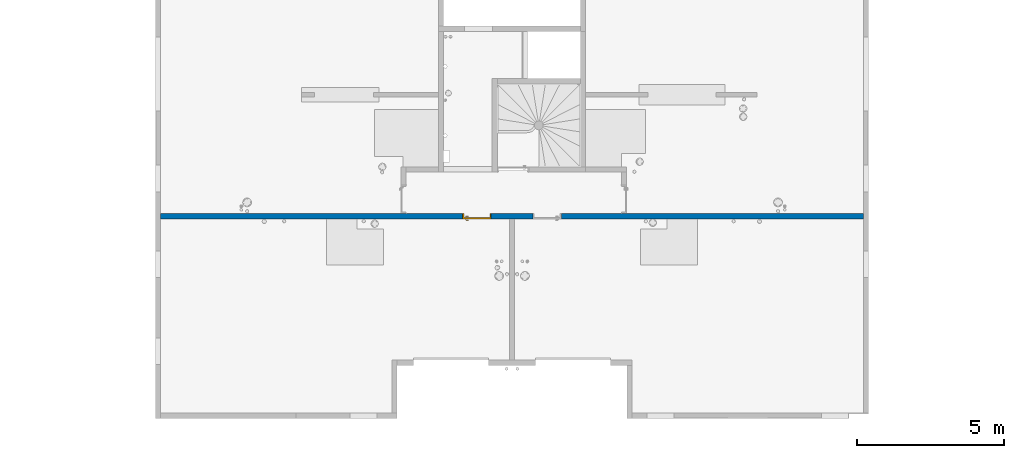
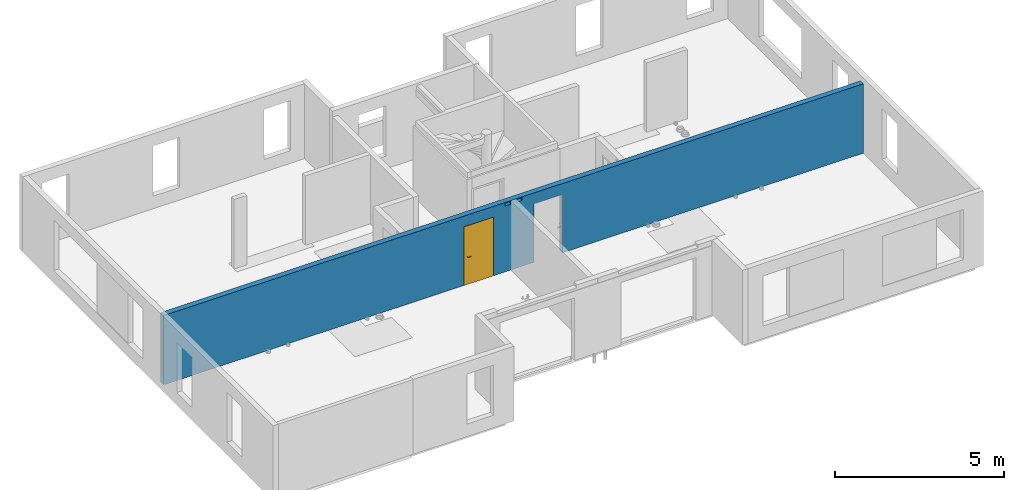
# One storey, part 8 of 24: 1 door, 1 wall, 6 openings.
"""IFC2X3 building model written with IfcOpenShell, lengths in centimetres."""

from ifc_helpers import new_model, entity, si_unit, converted_unit, derived_unit, direction, frame, frame_2d, origin, place, context, subcontext, project, spatial, rectangle, extrude, faceted_brep, source, transform, mapped, material, material_list, layer, layer_set, layer_usage, type_object, type_shapes, element, fill, save


model = new_model("IFC2X3")

# Units and contexts
model_context = context("Model", 3, precision=0.001, world=origin(), true_north=direction((6.12303176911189e-17, 1.0)))
body_context = subcontext(model_context, "Body", "Model", "MODEL_VIEW")
ifc_project = project(units=[si_unit("LENGTHUNIT", "METRE", prefix="CENTI"), si_unit("AREAUNIT", "SQUARE_METRE"), si_unit("VOLUMEUNIT", "CUBIC_METRE"), converted_unit("PLANEANGLEUNIT", "DEGREE", entity("IfcRatioMeasure", 0.0174532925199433), si_unit("PLANEANGLEUNIT", "RADIAN"), dimensions=[0, 0, 0, 0, 0, 0, 0]), si_unit("MASSUNIT", "GRAM", prefix="KILO"), derived_unit("MASSDENSITYUNIT", [(si_unit("MASSUNIT", "GRAM", prefix="KILO"), 1), (si_unit("LENGTHUNIT", "METRE"), -3)]), si_unit("TIMEUNIT", "SECOND"), si_unit("FREQUENCYUNIT", "HERTZ"), si_unit("THERMODYNAMICTEMPERATUREUNIT", "DEGREE_CELSIUS"), derived_unit("THERMALTRANSMITTANCEUNIT", [(si_unit("MASSUNIT", "GRAM", prefix="KILO"), 1), (si_unit("THERMODYNAMICTEMPERATUREUNIT", "KELVIN"), -1), (si_unit("TIMEUNIT", "SECOND"), -3)]), derived_unit("VOLUMETRICFLOWRATEUNIT", [(si_unit("LENGTHUNIT", "METRE"), 3), (si_unit("TIMEUNIT", "SECOND"), -1)]), si_unit("ELECTRICCURRENTUNIT", "AMPERE"), si_unit("ELECTRICVOLTAGEUNIT", "VOLT"), si_unit("POWERUNIT", "WATT"), si_unit("FORCEUNIT", "NEWTON"), si_unit("ILLUMINANCEUNIT", "LUX"), si_unit("LUMINOUSFLUXUNIT", "LUMEN"), si_unit("LUMINOUSINTENSITYUNIT", "CANDELA"), derived_unit("USERDEFINED", [(si_unit("MASSUNIT", "GRAM", prefix="KILO"), -1), (si_unit("LENGTHUNIT", "METRE"), -2), (si_unit("TIMEUNIT", "SECOND"), 3), (si_unit("LUMINOUSFLUXUNIT", "LUMEN"), 1)]), derived_unit("LINEARVELOCITYUNIT", [(si_unit("LENGTHUNIT", "METRE"), 1), (si_unit("TIMEUNIT", "SECOND"), -1)]), si_unit("PRESSUREUNIT", "PASCAL"), derived_unit("USERDEFINED", [(si_unit("LENGTHUNIT", "METRE"), -2), (si_unit("MASSUNIT", "GRAM", prefix="KILO"), 1), (si_unit("TIMEUNIT", "SECOND"), -2)])], contexts=[model_context])

# Site, building, storey
site_placement = place(None, origin())
site = spatial("IfcSite", under=ifc_project, at=site_placement, Name="Default", CompositionType="ELEMENT")
building_placement = place(site_placement, origin())
building = spatial("IfcBuilding", under=site, at=building_placement, Name="CAGE 03", CompositionType="ELEMENT")
storey_placement = place(building_placement, frame((0.0, 0.0, 1150.0)))
storey = spatial("IfcBuildingStorey", under=building, at=storey_placement, Name="R+4", CompositionType="ELEMENT", Elevation=1150.0)

# Wall, openings, door
ifc_material_1 = material(Name="Béton, C25/30")
ifc_layer = layer(ifc_material_1, 18.0)
ifc_layer_set = layer_set([ifc_layer], Name="Mur de base:Voile BA 18")
ifc_layer_usage = layer_usage(ifc_layer_set, "AXIS2", "NEGATIVE", 9.0)
wall_type = type_object("IfcWallType", Name="Mur de base:Voile BA 18", PredefinedType="STANDARD", material=ifc_layer_set)
wall_placement = place(storey_placement, frame((5888.36582014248, 4483.6606660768, 0.0)))
wall = element("IfcWallStandardCase", 1, at=wall_placement, inside=storey, type_object=wall_type, material=ifc_layer_usage, Name="Mur de base:Voile BA 18", ObjectType="Mur de base:Voile BA 18", context=body_context, shape_type="SweptSolid", body=[
    extrude(rectangle(XDim=2385.99999999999, YDim=17.9999999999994, at=frame_2d((1193.0, -8.88178419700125e-16), x_axis=(-1.0, 0.0))), origin(), (0.0, 0.0, 1.0), 250.0),
])
opening_1_placement = place(wall_placement, origin())
element("IfcOpeningElement", 2, at=opening_1_placement, cuts=wall, Name="Mur de base:Voile BA 18", ObjectType="Opening", context=body_context, shape_type="SweptSolid", body=[
    extrude(rectangle(XDim=210.000000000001, YDim=18.0000000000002, at=frame_2d((4.33431068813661e-13, 0.0), x_axis=(0.0, 1.0))), frame((825.0, 9.0, 105.0), z_axis=(0.0, 1.0, 0.0), x_axis=(1.0, 0.0, 0.0)), (0.0, 0.0, 1.0), 96.9999999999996),
])
opening_2_placement = place(wall_placement, origin())
element("IfcOpeningElement", 3, at=opening_2_placement, cuts=wall, Name="Mur de base:Voile BA 18", ObjectType="Opening", context=body_context, shape_type="SweptSolid", body=[
    extrude(rectangle(XDim=210.000000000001, YDim=18.0000000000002, at=frame_2d((4.33431068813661e-13, 0.0), x_axis=(0.0, 1.0))), frame((1573.0, 9.0, 105.0), z_axis=(0.0, 1.0, 0.0), x_axis=(1.0, 0.0, 0.0)), (0.0, 0.0, 1.0), 96.9999999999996),
])
opening_3_placement = place(wall_placement, origin())
element("IfcOpeningElement", 4, at=opening_3_placement, cuts=wall, Name="Mur de base:Voile BA 18", ObjectType="Opening", context=body_context, shape_type="SweptSolid", body=[
    extrude(rectangle(XDim=10.0000000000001, YDim=19.9999999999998, at=frame_2d((4.33431068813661e-13, 1.08357767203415e-13), x_axis=(0.0, 1.0))), frame((1174.0, -9.0, 242.500000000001), z_axis=(0.0, 1.0, 0.0), x_axis=(1.0, 0.0, 0.0)), (0.0, 0.0, 1.0), 17.9999999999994),
])
opening_4_placement = place(wall_placement, origin())
element("IfcOpeningElement", 5, at=opening_4_placement, cuts=wall, Name="Mur de base:Voile BA 18", ObjectType="Opening", context=body_context, shape_type="SweptSolid", body=[
    extrude(rectangle(XDim=10.0000000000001, YDim=19.9999999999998, at=frame_2d((4.33431068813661e-13, 1.08357767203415e-13), x_axis=(0.0, 1.0))), frame((1212.0, -9.0, 242.500000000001), z_axis=(0.0, 1.0, 0.0), x_axis=(1.0, 0.0, 0.0)), (0.0, 0.0, 1.0), 17.9999999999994),
])
opening_5_placement = place(wall_placement, frame((1122.5, 9.0, 0.0)))
opening_5 = element("IfcOpeningElement", 6, at=opening_5_placement, cuts=wall, Name="Int. Simple:HB93:1", ObjectType="Opening", context=body_context, shape_type="SweptSolid", body=[
    extrude(rectangle(XDim=210.000000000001, YDim=96.9999999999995, at=frame_2d((105.000000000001, 48.4999999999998), x_axis=(1.0, 0.0))), frame((0.0, 0.0, 0.0), z_axis=(0.0, -1.0, 0.0), x_axis=(0.0, 0.0, 1.0)), (0.0, 0.0, 1.0), 18.0),
])
opening_6_placement = place(wall_placement, frame((1360.5, 9.0, 0.0)))
element("IfcOpeningElement", 7, at=opening_6_placement, cuts=wall, Name="Int. Simple:HB93:1", ObjectType="Opening", context=body_context, shape_type="SweptSolid", body=[
    extrude(rectangle(XDim=210.000000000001, YDim=96.9999999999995, at=frame_2d((105.000000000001, 48.4999999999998), x_axis=(1.0, 0.0))), frame((0.0, 0.0, 0.0), z_axis=(0.0, -1.0, 0.0), x_axis=(0.0, 0.0, 1.0)), (0.0, 0.0, 1.0), 18.0),
])
ifc_material_2 = material(Name="Finition Peinture - Blanc satiné")
ifc_material_3 = material(Name="Bois - Panneau de porte")
ifc_material_4 = material(Name="Bois - Cadre de porte")
ifc_material_list_1 = material_list([ifc_material_2, ifc_material_3, ifc_material_4])
ifc_material_list_2 = material_list([ifc_material_2, ifc_material_3, ifc_material_4])
door_style = type_object("IfcDoorStyle", Name="HB93", ConstructionType="NOTDEFINED", OperationType="SINGLE_SWING_LEFT", ParameterTakesPrecedence=False, Sizeable=False, material=ifc_material_list_2)
shared_shape = source(origin(), body_context, "Body", "Brep", [
    faceted_brep([(10.5352761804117, -0.500000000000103, 86.6003983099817), (11.5000000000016, -0.500000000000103, 87.0), (11.5000000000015, -0.500000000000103, 108.0), (10.5352761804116, -0.500000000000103, 108.399601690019), (9.50000000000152, -0.500000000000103, 108.535898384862), (8.46472381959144, -0.500000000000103, 108.399601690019), (7.50000000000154, -0.500000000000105, 108.0), (7.50000000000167, -0.500000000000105, 87.0), (8.46472381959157, -0.500000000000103, 86.6003983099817), (9.50000000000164, -0.500000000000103, 86.464101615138), (10.5352761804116, 0.0, 108.399601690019), (11.5000000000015, 0.0, 108.0), (11.5000000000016, 0.0, 87.0), (10.5352761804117, 0.0, 86.6003983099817), (9.50000000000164, 0.0, 86.464101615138), (8.46472381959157, 0.0, 86.6003983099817), (7.50000000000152, 0.0, 87.0), (7.50000000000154, 0.0, 108.0), (8.46472381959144, 0.0, 108.399601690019), (9.50000000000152, 0.0, 108.535898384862)], [[[0, 1, 2, 3, 4, 5, 6, 7, 8, 9]], [[10, 11, 12, 13, 14, 15, 16, 17, 18, 19]], [[16, 15, 8, 7]], [[8, 15, 14, 9]], [[14, 13, 0, 9]], [[13, 12, 1, 0]], [[2, 1, 12, 11]], [[11, 10, 3, 2]], [[3, 10, 19, 4]], [[19, 18, 5, 4]], [[18, 17, 6, 5]], [[7, 6, 17, 16]]]),
    faceted_brep([(10.5352761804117, 4.0, 86.6003983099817), (11.5000000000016, 4.0, 87.0), (11.5000000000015, 4.0, 108.0), (10.5352761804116, 4.0, 108.399601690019), (9.50000000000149, 4.0, 108.535898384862), (8.46472381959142, 4.0, 108.399601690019), (7.50000000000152, 4.0, 108.0), (7.50000000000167, 4.0, 87.0), (8.46472381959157, 4.0, 86.6003983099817), (9.50000000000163, 4.0, 86.464101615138), (10.5352761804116, 4.49999999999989, 108.399601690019), (11.5000000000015, 4.4999999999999, 108.0), (11.5000000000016, 4.4999999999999, 87.0), (10.5352761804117, 4.49999999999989, 86.6003983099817), (9.50000000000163, 4.49999999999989, 86.464101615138), (8.46472381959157, 4.49999999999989, 86.6003983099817), (7.50000000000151, 4.49999999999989, 87.0), (7.50000000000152, 4.49999999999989, 108.0), (8.46472381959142, 4.49999999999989, 108.399601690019), (9.50000000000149, 4.49999999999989, 108.535898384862)], [[[0, 1, 2, 3, 4, 5, 6, 7, 8, 9]], [[10, 11, 12, 13, 14, 15, 16, 17, 18, 19]], [[11, 10, 3, 2]], [[3, 10, 19, 4]], [[19, 18, 5, 4]], [[18, 17, 6, 5]], [[7, 6, 17, 16]], [[16, 15, 8, 7]], [[8, 15, 14, 9]], [[14, 13, 0, 9]], [[13, 12, 1, 0]], [[2, 1, 12, 11]]]),
    faceted_brep([(9.29747013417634, -0.500000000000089, 100.778044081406), (9.70252986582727, -0.500000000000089, 100.778044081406), (10.1000000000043, -0.500000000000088, 100.699999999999), (10.1000000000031, -0.500000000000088, 99.3000000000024), (9.70252986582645, -0.500000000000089, 99.2219559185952), (9.29747013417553, -0.500000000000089, 99.221955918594), (8.89999999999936, -0.500000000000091, 99.2999999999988), (8.89999999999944, -0.500000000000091, 100.7), (8.89999999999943, -3.26509507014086, 100.7), (9.29747013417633, -3.10045754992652, 100.778044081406), (10.9023585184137, -4.70534593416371, 100.778044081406), (11.0701397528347, -4.30028620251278, 100.778044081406), (9.70252986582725, -2.93267631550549, 100.778044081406), (10.1000000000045, -2.76803879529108, 100.7), (10.1000000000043, -2.76803879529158, 99.3000000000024), (9.70252986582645, -2.93267631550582, 99.2219559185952), (11.0701397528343, -4.30028620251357, 99.2219559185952), (10.9023585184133, -4.70534593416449, 99.221955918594), (9.29747013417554, -3.10045754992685, 99.221955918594), (8.89999999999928, -3.26509507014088, 99.2999999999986), (10.7377209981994, -5.1028160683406, 100.7), (11.2347772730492, -3.90281606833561, 100.7), (11.2347772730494, -3.90281606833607, 99.3000000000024), (10.7377209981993, -5.10281606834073, 99.2999999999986), (19.5018640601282, -5.1028160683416, 99.2999999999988), (19.5018640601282, -4.70534593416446, 99.221955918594), (19.5018640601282, -4.30028620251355, 99.2219559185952), (19.5018640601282, -3.90281606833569, 99.3000000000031), (19.5018640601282, -3.90281606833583, 100.7), (19.5018640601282, -4.30028620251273, 100.778044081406), (19.5018640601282, -4.70534593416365, 100.778044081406), (19.5018640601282, -5.10281606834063, 100.699999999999), (14.7307697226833, -5.10281606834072, 100.7), (15.28600190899, -4.5028160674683, 100.78786867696), (15.3683206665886, -3.9028160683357, 100.7), (15.3683206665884, -3.90281606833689, 99.3000000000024), (15.2860018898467, -4.50281607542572, 99.2121313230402), (14.7307700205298, -5.10281606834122, 99.2999999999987)], [[[0, 1, 2, 3, 4, 5, 6, 7]], [[8, 9, 0, 7]], [[9, 10, 11, 12, 1, 0]], [[12, 13, 2, 1]], [[3, 2, 13, 14]], [[14, 15, 4, 3]], [[15, 16, 17, 18, 5, 4]], [[18, 19, 6, 5]], [[7, 6, 19, 8]], [[20, 10, 9, 8]], [[11, 21, 13, 12]], [[14, 13, 21, 22]], [[22, 16, 15, 14]], [[17, 23, 19, 18]], [[8, 19, 23, 20]], [[24, 25, 26, 27, 28, 29, 30, 31]], [[32, 30, 33]], [[31, 30, 32]], [[10, 20, 32]], [[33, 34, 11]], [[21, 11, 34]], [[34, 29, 28]], [[30, 29, 33]], [[29, 34, 33]], [[10, 32, 33]], [[10, 33, 11]], [[22, 21, 34, 28, 27, 35]], [[35, 26, 36]], [[37, 36, 25]], [[22, 35, 16]], [[35, 27, 26]], [[24, 37, 25]], [[23, 17, 37]], [[37, 17, 36]], [[17, 16, 36]], [[16, 35, 36]], [[25, 36, 26]], [[20, 23, 37, 24, 31, 32]]]),
    faceted_brep([(9.29747013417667, 4.49999999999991, 100.778044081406), (8.89999999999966, 4.49999999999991, 100.7), (8.89999999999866, 4.49999999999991, 99.2999999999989), (9.2974701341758, 4.49999999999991, 99.221955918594), (9.70252986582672, 4.49999999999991, 99.2219559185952), (10.1000000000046, 4.49999999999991, 99.3000000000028), (10.1000000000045, 4.49999999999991, 100.7), (9.70252986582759, 4.49999999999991, 100.778044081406), (10.1000000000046, 6.7485204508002, 99.3000000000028), (10.1000000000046, 6.74852045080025, 100.7), (9.70252986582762, 6.91315797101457, 100.778044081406), (11.0838906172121, 8.29451872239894, 100.778044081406), (10.9161093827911, 8.69957845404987, 100.778044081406), (9.29747013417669, 7.0809392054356, 100.778044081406), (8.89999999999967, 7.24557672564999, 100.7), (8.89999999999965, 7.24557672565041, 99.2999999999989), (9.29747013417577, 7.08093920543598, 99.221955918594), (10.9161093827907, 8.69957845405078, 99.221955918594), (11.0838906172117, 8.29451872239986, 99.2219559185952), (9.7025298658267, 6.91315797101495, 99.2219559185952), (11.2485281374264, 7.89704858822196, 99.3000000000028), (11.2485281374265, 7.89704858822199, 100.7), (10.7514718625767, 9.0970485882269, 100.7), (10.751471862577, 9.0970485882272, 99.2999999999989), (19.504578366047, 7.89704858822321, 99.3000000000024), (19.504578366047, 8.29451872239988, 99.2219559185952), (19.504578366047, 8.6995784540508, 99.221955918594), (19.504578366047, 9.09704858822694, 99.2999999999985), (19.504578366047, 9.09704858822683, 100.7), (19.504578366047, 8.69957845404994, 100.778044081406), (19.504578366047, 8.29451872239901, 100.778044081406), (19.504578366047, 7.89704858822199, 100.7), (15.3765520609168, 7.89704858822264, 99.3000000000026), (15.3765532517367, 7.89704858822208, 100.7), (15.294234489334, 8.49704858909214, 100.78786867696), (14.7445205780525, 9.09704858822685, 100.7), (14.7445204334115, 9.09704858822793, 99.2999999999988), (15.2942345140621, 8.49704858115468, 99.2121313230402)], [[[0, 1, 2, 3, 4, 5, 6, 7]], [[6, 5, 8, 9]], [[9, 10, 7, 6]], [[10, 11, 12, 13, 0, 7]], [[13, 14, 1, 0]], [[2, 1, 14, 15]], [[15, 16, 3, 2]], [[16, 17, 18, 19, 4, 3]], [[19, 8, 5, 4]], [[9, 8, 20, 21]], [[21, 11, 10, 9]], [[12, 22, 14, 13]], [[15, 14, 22, 23]], [[23, 17, 16, 15]], [[18, 20, 8, 19]], [[24, 25, 26, 27, 28, 29, 30, 31]], [[21, 20, 32, 24, 31, 33]], [[33, 30, 34]], [[35, 34, 29]], [[21, 33, 11]], [[33, 31, 30]], [[28, 35, 29]], [[22, 12, 35]], [[35, 12, 34]], [[12, 11, 34]], [[11, 33, 34]], [[29, 34, 30]], [[22, 35, 28, 27, 36, 23]], [[36, 26, 37]], [[27, 26, 36]], [[17, 23, 36]], [[37, 32, 18]], [[20, 18, 32]], [[32, 25, 24]], [[26, 25, 37]], [[25, 32, 37]], [[17, 36, 37]], [[17, 37, 18]]]),
    faceted_brep([(3.50000000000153, 4.0, 206.5), (93.5000000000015, 4.0, 206.5), (93.5000000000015, 4.0, 0.0), (3.50000000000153, 4.0, 0.0), (3.50000000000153, 0.0, 206.5), (3.50000000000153, 0.0, 0.0), (93.5000000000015, 0.0, 0.0), (93.5000000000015, 0.0, 206.5)], [[[0, 1, 2, 3]], [[4, 5, 6, 7]], [[1, 0, 4, 7]], [[2, 1, 7, 6]], [[3, 2, 6, 5]], [[0, 3, 5, 4]]]),
    faceted_brep([(0.0, 0.0, 0.0), (0.0, 18.0, 0.0), (5.0, 18.0, 0.0), (5.0, 4.0, 0.0), (3.50000000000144, 4.0, 0.0), (3.50000000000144, 0.0, 0.0), (0.0, 0.0, 210.0), (0.0, 18.0, 210.0), (97.0, 18.0, 210.0), (97.0, 18.0, 0.0), (92.0, 18.0, 0.0), (92.0, 18.0, 205.0), (5.0, 18.0, 205.0), (5.0, 4.0, 205.0), (92.0, 4.0, 205.0), (92.0, 4.0, 0.0), (93.4999999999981, 4.0, 0.0), (93.4999999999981, 4.0, 206.5), (3.50000000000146, 4.0, 206.5), (3.50000000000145, 0.0, 206.5), (93.4999999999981, 0.0, 206.5), (93.4999999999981, 0.0, 0.0), (97.0, 0.0, 0.0), (97.0, 0.0, 210.0)], [[[0, 1, 2, 3, 4, 5]], [[1, 0, 6, 7]], [[2, 1, 7, 8, 9, 10, 11, 12]], [[3, 2, 12, 13]], [[4, 3, 13, 14, 15, 16, 17, 18]], [[5, 4, 18, 19]], [[0, 5, 19, 20, 21, 22, 23, 6]], [[8, 23, 22, 9]], [[22, 21, 16, 15, 10, 9]], [[14, 11, 10, 15]], [[20, 17, 16, 21]], [[7, 6, 23, 8]], [[13, 12, 11, 14]], [[19, 18, 17, 20]]]),
    faceted_brep([(1.5, 18.0, 0.0), (-1.49999999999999, 18.0, 0.0), (-1.49999999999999, 18.5000000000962, 0.0), (1.5, 18.5000000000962, 0.0), (1.5, 18.0, 208.500000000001), (95.4999999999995, 18.0, 208.500000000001), (95.4999999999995, 18.0, 0.0), (98.4999999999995, 18.0, 0.0), (98.4999999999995, 18.0, 211.500000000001), (-1.49999999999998, 18.0, 211.500000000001), (-1.49999999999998, 18.5000000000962, 211.500000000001), (98.4999999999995, 18.5000000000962, 211.500000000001), (98.4999999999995, 18.5000000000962, 0.0), (95.4999999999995, 18.5000000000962, 0.0), (95.4999999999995, 18.5000000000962, 208.500000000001), (1.50000000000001, 18.5000000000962, 208.500000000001)], [[[0, 1, 2, 3]], [[1, 0, 4, 5, 6, 7, 8, 9]], [[2, 1, 9, 10]], [[3, 2, 10, 11, 12, 13, 14, 15]], [[0, 3, 15, 4]], [[6, 13, 12, 7]], [[5, 14, 13, 6]], [[11, 8, 7, 12]], [[10, 9, 8, 11]], [[4, 15, 14, 5]]]),
    faceted_brep([(-1.49999999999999, -0.5, 0.0), (1.5, -0.5, 0.0), (1.5, -0.5, 208.500000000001), (95.4999999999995, -0.5, 208.500000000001), (95.4999999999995, -0.5, 0.0), (98.4999999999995, -0.5, 0.0), (98.4999999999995, -0.5, 211.500000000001), (-1.49999999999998, -0.5, 211.500000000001), (-1.49999999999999, 0.0, 0.0), (-1.49999999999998, 0.0, 211.500000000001), (1.5, 0.0, 0.0), (98.4999999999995, 0.0, 211.500000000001), (98.4999999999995, 0.0, 0.0), (95.4999999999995, 0.0, 0.0), (95.4999999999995, 0.0, 208.500000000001), (1.50000000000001, 0.0, 208.500000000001)], [[[0, 1, 2, 3, 4, 5, 6, 7]], [[8, 0, 7, 9]], [[10, 8, 9, 11, 12, 13, 14, 15]], [[1, 10, 15, 2]], [[3, 14, 13, 4]], [[11, 6, 5, 12]], [[9, 7, 6, 11]], [[2, 15, 14, 3]], [[4, 13, 12, 5]], [[1, 0, 8, 10]]]),
])
type_shapes(door_style, [shared_shape])
door_placement = place(opening_5_placement, frame((-97.0, -18.0, 0.0)))
door = element("IfcDoor", 8, at=door_placement, inside=storey, type_object=door_style, material=ifc_material_list_1, Name="Int. Simple:HB93", ObjectType="HB93", OverallHeight=210.000000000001, OverallWidth=96.9999999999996, context=body_context, shape_type="MappedRepresentation", body=[
    mapped(shared_shape, transform((0.0, 0.0, 0.0), scale=1.0)),
])
fill(opening_5, door)

save(model, "model.ifc")
